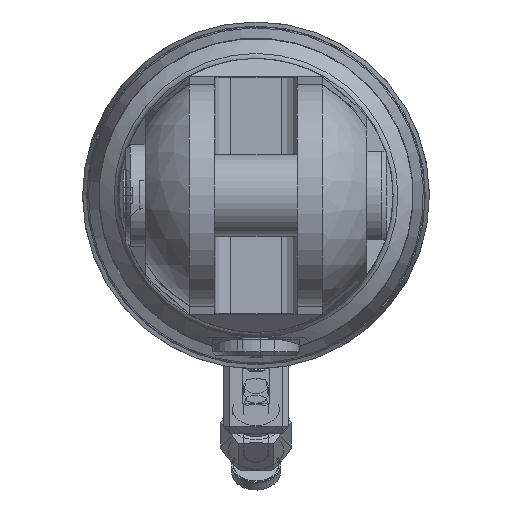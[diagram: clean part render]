
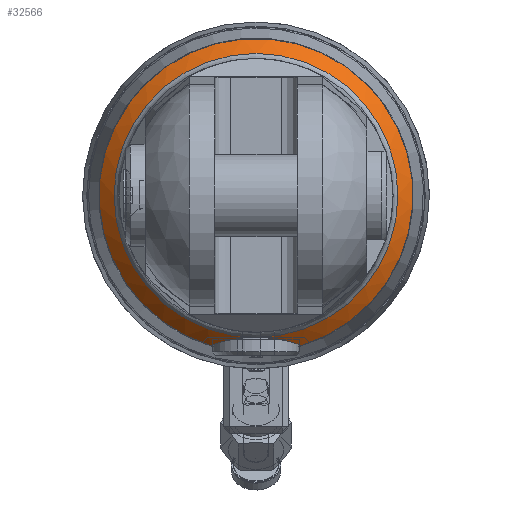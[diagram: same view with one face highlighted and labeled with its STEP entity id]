
A CAD part, left-side view. The second image highlights one B-rep face of the part: STEP entity #32566.
In plain terms, the highlighted conical face has half-angle 45.661 degrees and reference radius 46.189 mm.
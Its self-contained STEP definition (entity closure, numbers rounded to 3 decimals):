
#1785=B_SPLINE_CURVE_WITH_KNOTS('',3,(#59214,#59215,#59216,#59217,#59218,
#59219,#59220,#59221,#59222,#59223,#59224,#59225),.UNSPECIFIED.,.F.,.F.,
(4,2,2,2,2,4),(2.416,2.501,2.844,3.187,
3.529,3.872),.UNSPECIFIED.);
#1788=B_SPLINE_CURVE_WITH_KNOTS('',3,(#59269,#59270,#59271,#59272,#59273,
#59274,#59275,#59276,#59277,#59278,#59279,#59280),.UNSPECIFIED.,.F.,.F.,
(4,2,2,2,2,4),(3.872,4.215,4.558,4.901,
5.244,5.329),.UNSPECIFIED.);
#2282=CIRCLE('',#33865,48.5);
#2283=CIRCLE('',#33867,43.878);
#2284=CIRCLE('',#33868,43.878);
#2504=CONICAL_SURFACE('',#33866,46.189,0.797);
#4002=FACE_OUTER_BOUND('',#5832,.T.);
#5832=EDGE_LOOP('',(#27300,#27301,#27302,#27303,#27304));
#14532=VERTEX_POINT('',#59201);
#14536=VERTEX_POINT('',#59213);
#14538=VERTEX_POINT('',#59248);
#14543=VERTEX_POINT('',#59337);
#18847=EDGE_CURVE('',#14536,#14532,#1785,.T.);
#18850=EDGE_CURVE('',#14532,#14538,#1788,.T.);
#18856=EDGE_CURVE('',#14536,#14538,#2282,.T.);
#18858=EDGE_CURVE('',#14532,#14543,#2283,.T.);
#18859=EDGE_CURVE('',#14543,#14532,#2284,.T.);
#27300=ORIENTED_EDGE('',*,*,#18850,.T.);
#27301=ORIENTED_EDGE('',*,*,#18856,.F.);
#27302=ORIENTED_EDGE('',*,*,#18847,.T.);
#27303=ORIENTED_EDGE('',*,*,#18858,.T.);
#27304=ORIENTED_EDGE('',*,*,#18859,.T.);
#32566=ADVANCED_FACE('',(#4002),#2504,.T.);
#33865=AXIS2_PLACEMENT_3D('',#59320,#39019,#39020);
#33866=AXIS2_PLACEMENT_3D('',#59336,#39021,#39022);
#33867=AXIS2_PLACEMENT_3D('',#59338,#39023,#39024);
#33868=AXIS2_PLACEMENT_3D('',#59339,#39025,#39026);
#39019=DIRECTION('center_axis',(1.,0.,0.));
#39020=DIRECTION('ref_axis',(0.,0.,
1.));
#39021=DIRECTION('center_axis',(1.,0.,0.));
#39022=DIRECTION('ref_axis',(0.,0.,
1.));
#39023=DIRECTION('center_axis',(1.,0.,0.));
#39024=DIRECTION('ref_axis',(0.,0.,
1.));
#39025=DIRECTION('center_axis',(1.,0.,0.));
#39026=DIRECTION('ref_axis',(0.,0.,
1.));
#59201=CARTESIAN_POINT('',(-2963.44,0.,-43.878));
#59213=CARTESIAN_POINT('',(-2958.924,14.06,-46.417));
#59214=CARTESIAN_POINT('Ctrl Pts',(-2958.924,14.06,-46.417));
#59215=CARTESIAN_POINT('Ctrl Pts',(-2959.073,13.836,-46.326));
#59216=CARTESIAN_POINT('Ctrl Pts',(-2959.219,13.609,-46.237));
#59217=CARTESIAN_POINT('Ctrl Pts',(-2959.94,12.459,-45.802));
#59218=CARTESIAN_POINT('Ctrl Pts',(-2960.502,11.456,-45.474));
#59219=CARTESIAN_POINT('Ctrl Pts',(-2961.515,9.329,-44.9));
#59220=CARTESIAN_POINT('Ctrl Pts',(-2961.966,8.204,-44.653));
#59221=CARTESIAN_POINT('Ctrl Pts',(-2962.699,5.892,-44.26));
#59222=CARTESIAN_POINT('Ctrl Pts',(-2962.981,4.703,-44.114));
#59223=CARTESIAN_POINT('Ctrl Pts',(-2963.352,2.328,-43.923));
#59224=CARTESIAN_POINT('Ctrl Pts',(-2963.44,1.143,-43.878));
#59225=CARTESIAN_POINT('Ctrl Pts',(-2963.44,0.,
-43.878));
#59248=CARTESIAN_POINT('',(-2958.924,-14.06,-46.417));
#59269=CARTESIAN_POINT('Ctrl Pts',(-2963.44,0.,
-43.878));
#59270=CARTESIAN_POINT('Ctrl Pts',(-2963.44,-1.143,-43.878));
#59271=CARTESIAN_POINT('Ctrl Pts',(-2963.352,-2.328,
-43.923));
#59272=CARTESIAN_POINT('Ctrl Pts',(-2962.981,-4.703,-44.114));
#59273=CARTESIAN_POINT('Ctrl Pts',(-2962.699,-5.892,-44.26));
#59274=CARTESIAN_POINT('Ctrl Pts',(-2961.966,-8.204,
-44.653));
#59275=CARTESIAN_POINT('Ctrl Pts',(-2961.515,-9.329,
-44.9));
#59276=CARTESIAN_POINT('Ctrl Pts',(-2960.502,-11.456,
-45.474));
#59277=CARTESIAN_POINT('Ctrl Pts',(-2959.94,-12.459,
-45.802));
#59278=CARTESIAN_POINT('Ctrl Pts',(-2959.219,-13.609,
-46.237));
#59279=CARTESIAN_POINT('Ctrl Pts',(-2959.073,-13.836,
-46.326));
#59280=CARTESIAN_POINT('Ctrl Pts',(-2958.924,-14.06,-46.417));
#59320=CARTESIAN_POINT('Origin',(-2958.924,0.,0.));
#59336=CARTESIAN_POINT('Origin',(-2961.182,0.,
0.));
#59337=CARTESIAN_POINT('',(-2963.44,43.878,0.));
#59338=CARTESIAN_POINT('Origin',(-2963.44,0.,
0.));
#59339=CARTESIAN_POINT('Origin',(-2963.44,0.,
0.));
